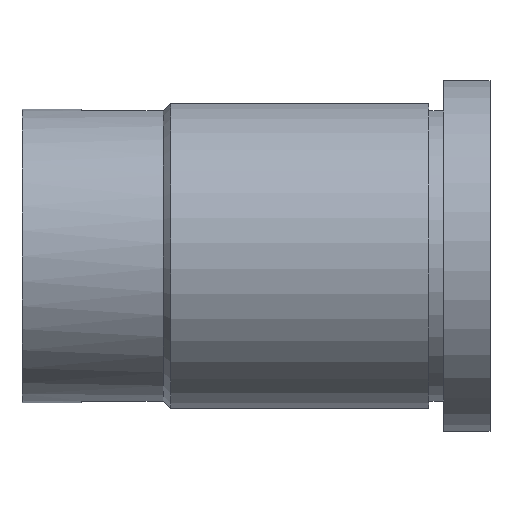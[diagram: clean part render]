
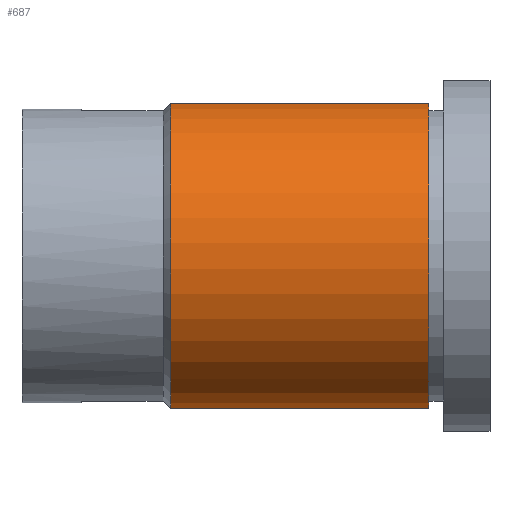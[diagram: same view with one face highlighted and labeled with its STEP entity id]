
A CAD part, front view. The second image highlights one B-rep face of the part: STEP entity #687.
In plain terms, the highlighted cylindrical face has radius 4.15 mm (diameter 8.3 mm), a partial arc.
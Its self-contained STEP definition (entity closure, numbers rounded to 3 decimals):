
#6 = EDGE_CURVE ( 'NONE', #985, #156, #367, .T. ) ;
#25 = VERTEX_POINT ( 'NONE', #688 ) ;
#48 = EDGE_LOOP ( 'NONE', ( #105, #333, #471, #50 ) ) ;
#50 = ORIENTED_EDGE ( 'NONE', *, *, #730, .T. ) ;
#58 = LINE ( 'NONE', #451, #589 ) ;
#105 = ORIENTED_EDGE ( 'NONE', *, *, #6, .F. ) ;
#156 = VERTEX_POINT ( 'NONE', #635 ) ;
#198 = CARTESIAN_POINT ( 'NONE',  ( 11.788, 0., 0. ) ) ;
#285 = CYLINDRICAL_SURFACE ( 'NONE', #526, 4.15 ) ;
#320 = AXIS2_PLACEMENT_3D ( 'NONE', #607, #515, #838 ) ;
#333 = ORIENTED_EDGE ( 'NONE', *, *, #427, .F. ) ;
#342 = CARTESIAN_POINT ( 'NONE',  ( 11.788, -0.6, -4.106 ) ) ;
#362 = DIRECTION ( 'NONE',  ( -1., 0., 0. ) ) ;
#367 = LINE ( 'NONE', #342, #808 ) ;
#427 = EDGE_CURVE ( 'NONE', #25, #985, #943, .T. ) ;
#451 = CARTESIAN_POINT ( 'NONE',  ( 11.788, -0.6, 4.106 ) ) ;
#469 = AXIS2_PLACEMENT_3D ( 'NONE', #720, #1030, #470 ) ;
#470 = DIRECTION ( 'NONE',  ( 0., 0., 1. ) ) ;
#471 = ORIENTED_EDGE ( 'NONE', *, *, #881, .F. ) ;
#515 = DIRECTION ( 'NONE',  ( 1., 0., 0. ) ) ;
#526 = AXIS2_PLACEMENT_3D ( 'NONE', #198, #915, #921 ) ;
#589 = VECTOR ( 'NONE', #792, 1000. ) ;
#607 = CARTESIAN_POINT ( 'NONE',  ( -8.6, 0., 0. ) ) ;
#635 = CARTESIAN_POINT ( 'NONE',  ( -8.6, -0.6, -4.106 ) ) ;
#687 = ADVANCED_FACE ( 'NONE', ( #1002 ), #285, .T. ) ;
#688 = CARTESIAN_POINT ( 'NONE',  ( -1.65, -0.6, 4.106 ) ) ;
#695 = VERTEX_POINT ( 'NONE', #754 ) ;
#720 = CARTESIAN_POINT ( 'NONE',  ( -1.65, 0., 0. ) ) ;
#730 = EDGE_CURVE ( 'NONE', #695, #156, #809, .T. ) ;
#754 = CARTESIAN_POINT ( 'NONE',  ( -8.6, -0.6, 4.106 ) ) ;
#792 = DIRECTION ( 'NONE',  ( 1., 0., 0. ) ) ;
#806 = CARTESIAN_POINT ( 'NONE',  ( -1.65, -0.6, -4.106 ) ) ;
#808 = VECTOR ( 'NONE', #362, 1000. ) ;
#809 = CIRCLE ( 'NONE', #320, 4.15 ) ;
#838 = DIRECTION ( 'NONE',  ( 0., 0., -1. ) ) ;
#881 = EDGE_CURVE ( 'NONE', #695, #25, #58, .T. ) ;
#915 = DIRECTION ( 'NONE',  ( 1., 0., 0. ) ) ;
#921 = DIRECTION ( 'NONE',  ( 0., 0., -1. ) ) ;
#943 = CIRCLE ( 'NONE', #469, 4.15 ) ;
#985 = VERTEX_POINT ( 'NONE', #806 ) ;
#1002 = FACE_OUTER_BOUND ( 'NONE', #48, .T. ) ;
#1030 = DIRECTION ( 'NONE',  ( 1., 0., 0. ) ) ;
